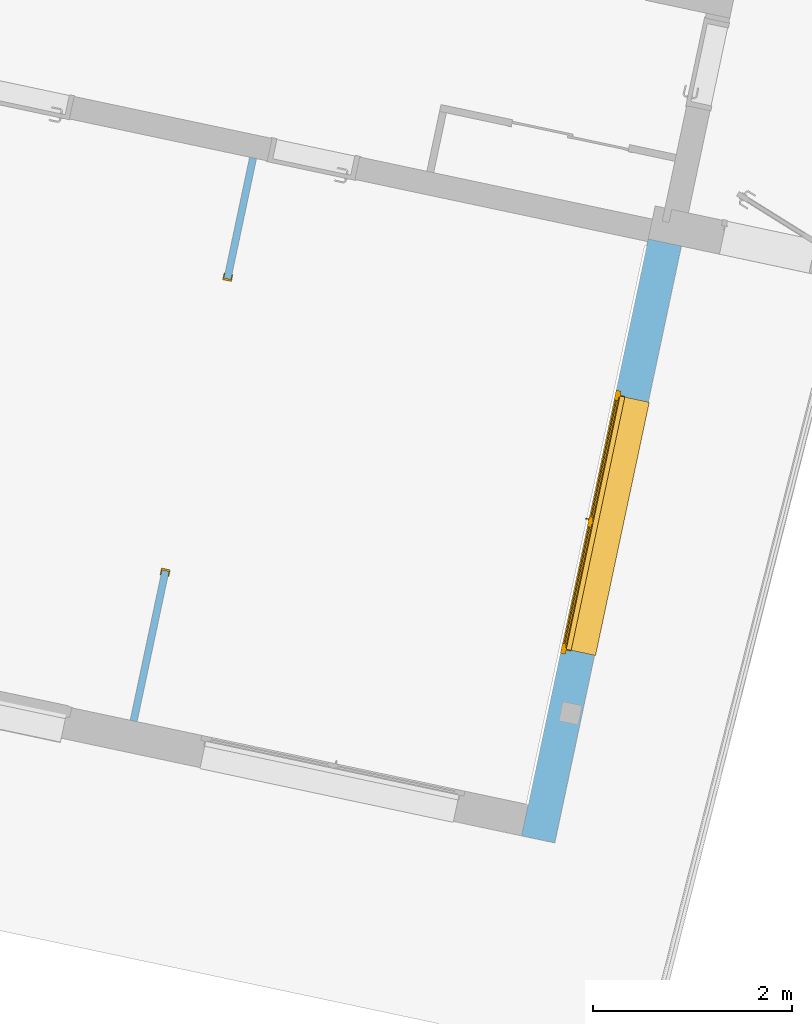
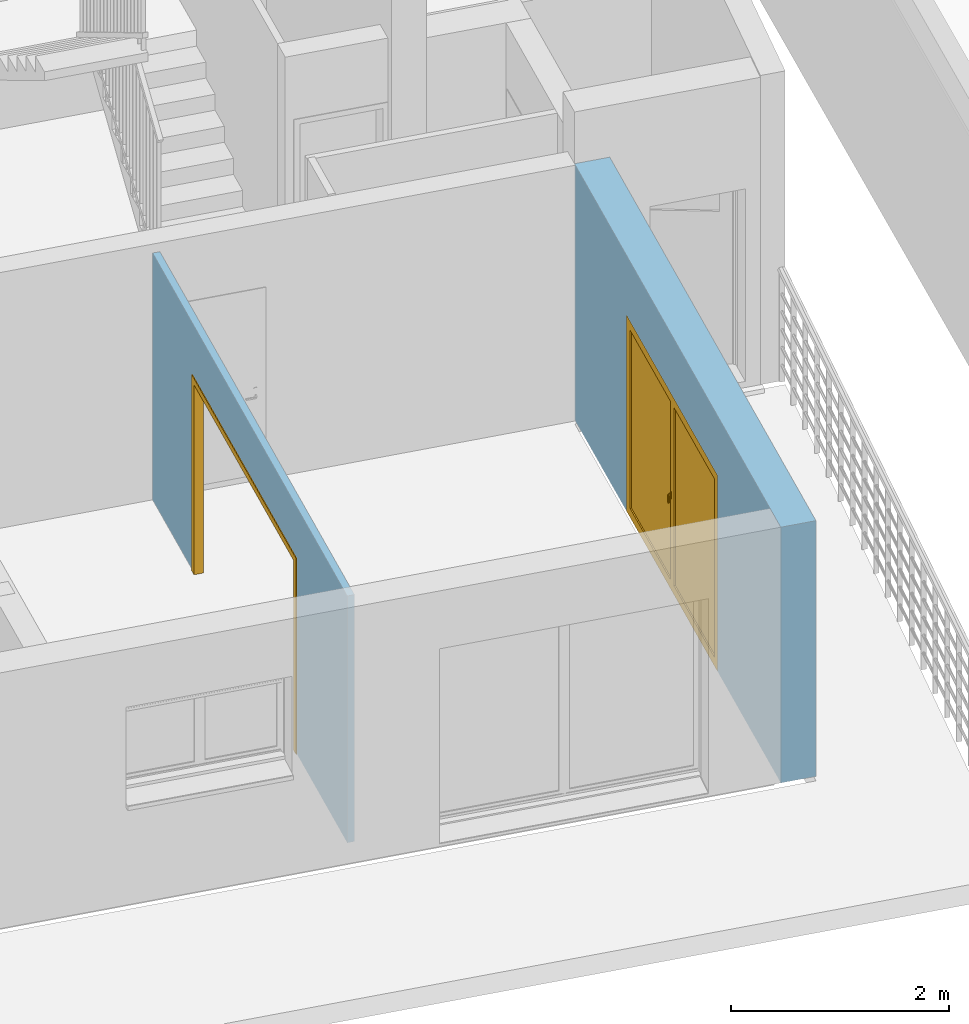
# One storey, part 8 of 20: 1 door, 1 window, 2 openings, plus 2 elements that do not belong to this part.
"""IFC2X3 building model written with IfcOpenShell, lengths in metres."""

from ifc_helpers import new_model, entity, si_unit, converted_unit, derived_unit, direction, frame, frame_2d, origin, place, context, subcontext, project, spatial, rectangle, extrude, faceted_brep, source, transform, mapped, material, material_list, layer, layer_set, layer_usage, type_object, type_shapes, element, fill, save


model = new_model("IFC2X3")

# Units and contexts
model_context = context("Model", 3, precision=1e-05, world=origin(), true_north=direction((6.12303176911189e-17, 1.0)))
body_context = subcontext(model_context, "Body", "Model", "MODEL_VIEW")
ifc_project = project(units=[si_unit("LENGTHUNIT", "METRE"), si_unit("AREAUNIT", "SQUARE_METRE"), si_unit("VOLUMEUNIT", "CUBIC_METRE"), converted_unit("PLANEANGLEUNIT", "DEGREE", entity("IfcRatioMeasure", 0.0174532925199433), si_unit("PLANEANGLEUNIT", "RADIAN"), dimensions=[0, 0, 0, 0, 0, 0, 0]), si_unit("MASSUNIT", "GRAM", prefix="KILO"), derived_unit("MASSDENSITYUNIT", [(si_unit("MASSUNIT", "GRAM", prefix="KILO"), 1), (si_unit("LENGTHUNIT", "METRE"), -3)]), si_unit("TIMEUNIT", "SECOND"), si_unit("FREQUENCYUNIT", "HERTZ"), si_unit("THERMODYNAMICTEMPERATUREUNIT", "DEGREE_CELSIUS"), derived_unit("THERMALTRANSMITTANCEUNIT", [(si_unit("MASSUNIT", "GRAM", prefix="KILO"), 1), (si_unit("THERMODYNAMICTEMPERATUREUNIT", "KELVIN"), -1), (si_unit("TIMEUNIT", "SECOND"), -3)]), derived_unit("VOLUMETRICFLOWRATEUNIT", [(si_unit("LENGTHUNIT", "METRE"), 3), (si_unit("TIMEUNIT", "SECOND"), -1)]), si_unit("ELECTRICCURRENTUNIT", "AMPERE"), si_unit("ELECTRICVOLTAGEUNIT", "VOLT"), si_unit("POWERUNIT", "WATT"), si_unit("FORCEUNIT", "NEWTON", prefix="KILO"), si_unit("ILLUMINANCEUNIT", "LUX"), si_unit("LUMINOUSFLUXUNIT", "LUMEN"), si_unit("LUMINOUSINTENSITYUNIT", "CANDELA"), derived_unit("USERDEFINED", [(si_unit("MASSUNIT", "GRAM", prefix="KILO"), -1), (si_unit("LENGTHUNIT", "METRE"), -2), (si_unit("TIMEUNIT", "SECOND"), 3), (si_unit("LUMINOUSFLUXUNIT", "LUMEN"), 1)]), derived_unit("LINEARVELOCITYUNIT", [(si_unit("LENGTHUNIT", "METRE"), 1), (si_unit("TIMEUNIT", "SECOND"), -1)]), si_unit("PRESSUREUNIT", "PASCAL"), derived_unit("USERDEFINED", [(si_unit("LENGTHUNIT", "METRE"), -2), (si_unit("MASSUNIT", "GRAM", prefix="KILO"), 1), (si_unit("TIMEUNIT", "SECOND"), -2)])], contexts=[model_context])

# Site, building, storey
site_placement = place(None, origin())
site = spatial("IfcSite", under=ifc_project, at=site_placement, Name="Default", CompositionType="ELEMENT")
building_placement = place(site_placement, origin())
building = spatial("IfcBuilding", under=site, at=building_placement, CompositionType="ELEMENT")
storey_placement = place(building_placement, frame((0.0, 0.0, -0.0686871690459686)))
storey = spatial("IfcBuildingStorey", under=building, at=storey_placement, Name="RDC", CompositionType="ELEMENT", Elevation=-0.0686871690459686)

# Wall, opening, window
ifc_material_1 = material(Name="Enduit blanc cassé2")
ifc_layer_1 = layer(ifc_material_1, 0.02)
ifc_material_2 = material(Name="Parpaing")
ifc_layer_2 = layer(ifc_material_2, 0.2)
ifc_material_3 = material(Name="Isolant")
ifc_layer_3 = layer(ifc_material_3, 0.12)
ifc_layer_set_1 = layer_set([ifc_layer_1, ifc_layer_2, ifc_layer_3], Name="Mur de base:Ext. Parpaing 20 + Isolant 12 enduit blanc cassé 2")
ifc_layer_usage_1 = layer_usage(ifc_layer_set_1, "AXIS2", "POSITIVE", -0.17)
wall_type_1 = type_object("IfcWallType", Name="Mur de base:Ext. Parpaing 20 + Isolant 12 enduit blanc cassé 2", PredefinedType="STANDARD", material=ifc_layer_set_1)
wall_1_placement = place(storey_placement, frame((-12.0401167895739, 72.8555040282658, 0.0), z_axis=(0.0, 0.0, 1.0), x_axis=(0.207484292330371, 0.978238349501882, 0.0)))
wall_1 = element("IfcWallStandardCase", 1, at=wall_1_placement, inside=storey, type_object=wall_type_1, material=ifc_layer_usage_1, Name="Mur de base:Ext. Parpaing 20 + Isolant 12 enduit blanc cassé 2", ObjectType="Mur de base:Ext. Parpaing 20 + Isolant 12 enduit blanc cassé 2", context=body_context, shape_type="SweptSolid", body=[
    extrude(rectangle(XDim=6.12478728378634, YDim=0.34, at=frame_2d((3.06239364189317, 1.55431223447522e-15), x_axis=(-1.0, 0.0))), origin(), (0.0, 0.0, 1.0), 2.86868716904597),
])
opening_1_placement = place(wall_1_placement, frame((1.72181819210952, 0.456950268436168, -0.0350000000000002), z_axis=(0.0, 0.0, 1.0), x_axis=(0.207484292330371, -0.978238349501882, 0.0)))
opening_1 = element("IfcOpeningElement", 2, at=opening_1_placement, cuts=wall_1, Name="Mur de base:Ext. Parpaing 20 + Isolant 12 enduit blanc cassé 2", ObjectType="Opening", context=body_context, shape_type="Brep", body=[
    faceted_brep([(0.401077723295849, 0.122415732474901, 0.0350000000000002), (0.72683378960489, 0.0533228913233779, 0.0), (0.978238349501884, 0.0, 0.0), (0.978238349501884, 0.0, 2.185), (0.420642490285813, 0.118266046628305, 2.185), (0.420642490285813, 0.118266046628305, 0.0350000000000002), (0.539459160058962, 2.75090400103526, 0.035), (0.539459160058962, 2.75090400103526, 2.185), (0.862277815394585, 2.68243418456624, 2.185), (0.862277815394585, 2.68243418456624, 0.0350000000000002), (0.0, 0.207484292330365, 0.035), (0.872652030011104, 2.73134610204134, 0.0350000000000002), (0.921563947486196, 2.72097188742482, 0.0350000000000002), (0.913264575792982, 2.68184235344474, 0.0350000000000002), (0.96217649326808, 2.67146813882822, 0.0350000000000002), (0.960101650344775, 2.6616857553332, 0.0349999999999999), (0.940536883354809, 2.66583544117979, 0.0350000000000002), (0.418567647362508, 0.108483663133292, 0.0350000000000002), (0.36965572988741, 0.118857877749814, 0.0350000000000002), (0.361356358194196, 0.0797283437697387, 0.0350000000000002), (0.312444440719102, 0.0901025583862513, 0.0350000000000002), (0.322818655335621, 0.139014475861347, 0.0350000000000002), (0.0, 0.207484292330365, 2.185), (0.322818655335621, 0.139014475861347, 2.185), (1.51769750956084, 2.54341970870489, 0.0), (1.51769750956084, 2.54341970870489, 2.185), (1.26629294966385, 2.59674260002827, 0.0), (0.361356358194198, 0.07972834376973, 2.235), (0.312444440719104, 0.0901025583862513, 2.235), (0.36965572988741, 0.118857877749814, 2.195), (0.913264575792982, 2.68184235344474, 2.195), (0.921563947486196, 2.72097188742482, 2.235), (0.418567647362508, 0.108483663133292, 2.195), (0.960101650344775, 2.6616857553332, 2.185), (0.96217649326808, 2.67146813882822, 2.195), (0.872652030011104, 2.73134610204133, 2.235)], [[[0, 1, 2, 3, 4, 5]], [[6, 7, 8, 9]], [[10, 6, 9, 11, 12, 13, 14, 15, 16, 0, 5, 17, 18, 19, 20, 21]], [[10, 22, 7, 6]], [[7, 22, 23, 8]], [[3, 2, 24, 25]], [[2, 1, 26, 24]], [[1, 0, 16, 26]], [[20, 19, 27, 28]], [[19, 18, 29, 30, 13, 12, 31, 27]], [[18, 17, 32, 29]], [[17, 5, 4, 33, 15, 14, 34, 32]], [[21, 20, 28, 35, 11, 9, 8, 23]], [[28, 27, 31, 35]], [[30, 29, 32, 34]], [[31, 12, 11, 35]], [[13, 30, 34, 14]], [[3, 25, 33, 4]], [[25, 24, 26, 16, 15, 33]], [[22, 10, 21, 23]]]),
])
ifc_material_4 = material(Name="Fenêtre - Poignée")
ifc_material_5 = material(Name="Fenêtre - Appui")
ifc_material_6 = material(Name="PVC Blanc")
ifc_material_7 = material(Name="Fenêtre - Vitrage")
ifc_material_8 = material(Name="Fenêtre - Cadre")
ifc_material_list_1 = material_list([ifc_material_4, ifc_material_5, ifc_material_6, ifc_material_7, ifc_material_8])
ifc_material_list_2 = material_list([ifc_material_4, ifc_material_5, ifc_material_6, ifc_material_7, ifc_material_8])
window_style = type_object("IfcWindowStyle", Name="2.60 X 2.15", ConstructionType="NOTDEFINED", OperationType="DOUBLE_PANEL_VERTICAL", ParameterTakesPrecedence=False, Sizeable=False, material=ifc_material_list_2)
shared_shape_1 = source(origin(), body_context, "Body", "Brep", [
    faceted_brep([(1.31935399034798, 0.663999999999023, 1.12203392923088), (1.33064600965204, 0.663999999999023, 1.12203392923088), (1.33203392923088, 0.663999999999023, 1.12064600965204), (1.33203392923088, 0.663999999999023, 1.10933230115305), (1.33066769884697, 0.663999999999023, 1.10796607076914), (1.31933230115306, 0.663999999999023, 1.10796607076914), (1.31796607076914, 0.663999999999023, 1.10933230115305), (1.31796607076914, 0.663999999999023, 1.12064600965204), (1.31796607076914, 0.651661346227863, 1.12064600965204), (1.31935399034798, 0.651086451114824, 1.12203392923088), (1.31796607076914, 0.656347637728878, 1.10933230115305), (1.31796607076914, 0.649667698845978, 1.10265236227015), (1.31796607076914, 0.649667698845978, 1.02000000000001), (1.31796607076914, 0.638353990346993, 1.02000000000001), (1.31796607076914, 0.638353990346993, 1.10733865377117), (1.31933230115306, 0.656913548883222, 1.10796607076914), (1.33066769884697, 0.656913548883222, 1.10796607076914), (1.33203392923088, 0.656347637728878, 1.10933230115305), (1.33203392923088, 0.651661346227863, 1.12064600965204), (1.33203392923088, 0.638353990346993, 1.10733865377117), (1.33203392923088, 0.638353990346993, 1.02000000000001), (1.33203392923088, 0.649667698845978, 1.02000000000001), (1.33203392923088, 0.649667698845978, 1.10265236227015), (1.33064600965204, 0.651086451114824, 1.12203392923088), (1.31935399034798, 0.636966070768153, 1.10791354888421), (1.31933230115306, 0.651033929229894, 1.10208645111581), (1.33066769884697, 0.651033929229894, 1.10208645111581), (1.33064600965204, 0.636966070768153, 1.10791354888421), (1.31935399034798, 0.636966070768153, 1.02000000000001), (1.31933230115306, 0.651033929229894, 1.02000000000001), (1.33066769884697, 0.651033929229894, 1.02000000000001), (1.33064600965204, 0.636966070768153, 1.02000000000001)], [[[0, 1, 2, 3, 4, 5, 6, 7]], [[7, 8, 9, 0]], [[6, 10, 11, 12, 13, 14, 8, 7]], [[5, 15, 10, 6]], [[4, 16, 15, 5]], [[3, 17, 16, 4]], [[2, 18, 19, 20, 21, 22, 17, 3]], [[1, 23, 18, 2]], [[0, 9, 23, 1]], [[8, 14, 24, 9]], [[15, 25, 11, 10]], [[16, 26, 25, 15]], [[17, 22, 26, 16]], [[23, 27, 19, 18]], [[9, 24, 27, 23]], [[28, 13, 12, 29, 30, 21, 20, 31]], [[14, 13, 28, 24]], [[25, 29, 12, 11]], [[26, 30, 29, 25]], [[22, 21, 30, 26]], [[27, 31, 20, 19]], [[24, 28, 31, 27]]]),
    faceted_brep([(1.318, 0.664000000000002, 1.14), (1.31300000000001, 0.664000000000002, 1.135), (1.31300000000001, 0.664000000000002, 1.06499999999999), (1.318, 0.664000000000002, 1.06), (1.33200000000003, 0.664000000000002, 1.06), (1.33700000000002, 0.664000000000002, 1.06499999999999), (1.33700000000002, 0.664000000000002, 1.135), (1.33200000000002, 0.664000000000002, 1.14), (1.318, 0.670000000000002, 1.14), (1.33200000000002, 0.670000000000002, 1.14), (1.33700000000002, 0.670000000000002, 1.135), (1.33700000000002, 0.670000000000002, 1.06499999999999), (1.33200000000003, 0.670000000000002, 1.06), (1.318, 0.670000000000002, 1.06), (1.31300000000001, 0.670000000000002, 1.06499999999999), (1.31300000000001, 0.670000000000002, 1.135)], [[[0, 1, 2, 3, 4, 5, 6, 7]], [[8, 9, 10, 11, 12, 13, 14, 15]], [[7, 9, 8, 0]], [[6, 10, 9, 7]], [[5, 11, 10, 6]], [[4, 12, 11, 5]], [[3, 13, 12, 4]], [[2, 14, 13, 3]], [[1, 15, 14, 2]], [[0, 8, 15, 1]]]),
    faceted_brep([(0.0500000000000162, 1.02002887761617, 0.0118740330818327), (0.0500000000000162, 1.02002887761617, 0.00500000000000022), (0.0500000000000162, 1.01502887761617, 0.00500000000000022), (0.0500000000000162, 1.01502887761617, 0.00714434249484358), (0.0500000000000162, 0.750000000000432, 0.0349999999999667), (0.0500000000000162, 0.750000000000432, 0.0499999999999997), (0.0500000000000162, 0.755000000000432, 0.0499999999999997), (0.0500000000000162, 0.755000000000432, 0.0397296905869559), (2.65000000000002, 1.02002887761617, 0.0118740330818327), (2.65000000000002, 0.755000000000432, 0.0397296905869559), (2.65000000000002, 0.755000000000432, 0.0499999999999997), (2.65000000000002, 0.750000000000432, 0.0499999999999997), (2.65000000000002, 0.750000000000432, 0.0349999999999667), (2.65000000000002, 1.01502887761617, 0.00714434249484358), (2.65000000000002, 1.01502887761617, 0.00500000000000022), (2.65000000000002, 1.02002887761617, 0.00500000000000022)], [[[0, 1, 2, 3, 4, 5, 6, 7]], [[8, 9, 10, 11, 12, 13, 14, 15]], [[7, 9, 8, 0]], [[6, 10, 9, 7]], [[5, 11, 10, 6]], [[4, 12, 11, 5]], [[3, 13, 12, 4]], [[2, 14, 13, 3]], [[1, 15, 14, 2]], [[0, 8, 15, 1]]]),
    faceted_brep([(2.65000000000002, 1.01900145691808, 0.0159764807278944), (2.65000000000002, 1.01644699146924, 0.017278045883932), (2.65000000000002, 0.755000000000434, 0.0447572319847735), (2.65000000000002, 0.755000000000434, 0.0397296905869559), (2.65000000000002, 1.02002887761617, 0.0118740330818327), (2.65000000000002, 1.02002887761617, 0.0132999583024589), (2.64500000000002, 1.01644699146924, 0.017278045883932), (2.64500000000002, 1.01900145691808, 0.0159764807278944), (2.64500000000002, 1.02002887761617, 0.0132999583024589), (2.64500000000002, 1.02002887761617, 0.0118740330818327), (2.64500000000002, 0.755000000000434, 0.0397296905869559), (2.64500000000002, 0.755000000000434, 0.0447572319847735)], [[[0, 1, 2, 3, 4, 5]], [[6, 7, 8, 9, 10, 11]], [[9, 4, 3, 10]], [[10, 3, 2, 11]], [[11, 2, 1, 6]], [[0, 7, 6, 1]], [[5, 8, 7, 0]], [[8, 5, 4, 9]]]),
    faceted_brep([(0.0550000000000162, 1.01900145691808, 0.0159764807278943), (0.0550000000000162, 1.01644699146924, 0.017278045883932), (0.0550000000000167, 0.75500000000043, 0.0447572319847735), (0.0550000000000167, 0.75500000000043, 0.0397296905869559), (0.0550000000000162, 1.02002887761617, 0.0118740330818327), (0.0550000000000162, 1.02002887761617, 0.0132999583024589), (0.0500000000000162, 1.01644699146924, 0.017278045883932), (0.0500000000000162, 1.01900145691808, 0.0159764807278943), (0.0500000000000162, 1.02002887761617, 0.0132999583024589), (0.0500000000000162, 1.02002887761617, 0.0118740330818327), (0.0500000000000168, 0.75500000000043, 0.0397296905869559), (0.0500000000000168, 0.75500000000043, 0.0447572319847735)], [[[0, 1, 2, 3, 4, 5]], [[6, 7, 8, 9, 10, 11]], [[9, 4, 3, 10]], [[10, 3, 2, 11]], [[11, 2, 1, 6]], [[0, 7, 6, 1]], [[5, 8, 7, 0]], [[8, 5, 4, 9]]]),
    faceted_brep([(1.35000000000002, 0.710000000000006, 0.0850000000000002), (2.65000000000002, 0.71000000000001, 0.0850000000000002), (2.65000000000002, 0.670000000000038, 0.0850000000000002), (1.35000000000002, 0.670000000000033, 0.0850000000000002), (1.40000000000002, 0.670000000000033, 0.135), (2.60000000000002, 0.670000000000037, 0.135), (2.60000000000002, 0.71000000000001, 0.135), (1.40000000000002, 0.710000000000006, 0.135), (2.65000000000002, 0.71000000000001, 2.185), (2.65000000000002, 0.670000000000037, 2.185), (2.60000000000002, 0.670000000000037, 2.135), (2.60000000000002, 0.71000000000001, 2.135), (1.35000000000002, 0.710000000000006, 2.185), (1.35000000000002, 0.670000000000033, 2.185), (1.40000000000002, 0.670000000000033, 2.135), (1.40000000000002, 0.710000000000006, 2.135)], [[[0, 1, 2, 3]], [[4, 5, 6, 7]], [[1, 8, 9, 2]], [[5, 10, 11, 6]], [[8, 12, 13, 9]], [[10, 14, 15, 11]], [[12, 0, 3, 13]], [[1, 0, 12, 8], [7, 6, 11, 15]], [[14, 4, 7, 15]], [[3, 2, 9, 13], [5, 4, 14, 10]]]),
    faceted_brep([(2.60000000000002, 0.695999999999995, 2.135), (2.60000000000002, 0.695999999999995, 0.135), (1.40000000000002, 0.695999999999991, 0.135), (1.40000000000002, 0.695999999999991, 2.135), (2.60000000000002, 0.683999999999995, 2.135), (1.40000000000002, 0.683999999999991, 2.135), (1.40000000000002, 0.683999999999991, 0.135), (2.60000000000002, 0.683999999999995, 0.135)], [[[0, 1, 2, 3]], [[4, 5, 6, 7]], [[3, 5, 4, 0]], [[2, 6, 5, 3]], [[1, 7, 6, 2]], [[0, 4, 7, 1]]]),
    faceted_brep([(1.30000000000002, 0.69599999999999, 2.135), (1.30000000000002, 0.68399999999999, 2.135), (1.30000000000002, 0.68399999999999, 0.135000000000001), (1.30000000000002, 0.69599999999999, 0.135000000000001), (0.100000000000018, 0.695999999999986, 2.135), (0.100000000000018, 0.683999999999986, 2.135), (0.100000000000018, 0.695999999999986, 0.135000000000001), (0.100000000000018, 0.683999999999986, 0.135000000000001)], [[[0, 1, 2, 3]], [[4, 5, 1, 0]], [[6, 7, 5, 4]], [[3, 2, 7, 6]], [[2, 1, 5, 7]], [[3, 6, 4, 0]]]),
    faceted_brep([(1.30000000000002, 0.709999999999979, 0.135), (0.100000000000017, 0.709999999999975, 0.135), (0.100000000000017, 0.669999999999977, 0.135), (1.30000000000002, 0.669999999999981, 0.135), (1.35000000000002, 0.669999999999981, 0.0850000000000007), (0.0500000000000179, 0.669999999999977, 0.0850000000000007), (0.0500000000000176, 0.709999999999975, 0.0850000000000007), (1.35000000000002, 0.709999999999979, 0.0850000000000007), (0.100000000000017, 0.709999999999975, 2.135), (0.100000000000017, 0.669999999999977, 2.135), (0.0500000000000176, 0.669999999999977, 2.185), (0.0500000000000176, 0.709999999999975, 2.185), (1.30000000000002, 0.709999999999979, 2.135), (1.30000000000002, 0.669999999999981, 2.135), (1.35000000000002, 0.669999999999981, 2.185), (1.35000000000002, 0.709999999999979, 2.185)], [[[0, 1, 2, 3]], [[4, 5, 6, 7]], [[1, 8, 9, 2]], [[5, 10, 11, 6]], [[8, 12, 13, 9]], [[10, 14, 15, 11]], [[12, 0, 3, 13]], [[1, 0, 12, 8], [7, 6, 11, 15]], [[14, 4, 7, 15]], [[3, 2, 9, 13], [5, 4, 14, 10]]], outer=[[True], [True], [True], [True], [True], [True], [True], [False, True], [True], [False, True]]),
    faceted_brep([(2.70000000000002, 0.670000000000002, 0.0350000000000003), (0.0, 0.670000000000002, 0.0350000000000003), (0.0, 0.720000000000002, 0.0350000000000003), (0.0500000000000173, 0.720000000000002, 0.035), (0.0500000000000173, 0.749999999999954, 0.0350000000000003), (2.65000000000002, 0.749999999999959, 0.0350000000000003), (2.65000000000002, 0.720000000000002, 0.0350000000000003), (2.70000000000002, 0.720000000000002, 0.0350000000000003), (2.65000000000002, 0.720000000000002, 0.0743761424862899), (0.0500000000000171, 0.720000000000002, 0.0743761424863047), (0.0, 0.720000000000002, 2.235), (2.70000000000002, 0.720000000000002, 2.235), (2.63500000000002, 0.720000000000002, 2.17), (0.0650000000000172, 0.720000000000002, 2.17), (0.0650000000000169, 0.720000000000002, 0.0999999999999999), (2.63500000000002, 0.720000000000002, 0.1), (2.63500000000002, 0.710000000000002, 0.1), (2.63500000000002, 0.710000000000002, 2.17), (0.0650000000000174, 0.710000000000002, 0.0999999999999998), (0.0650000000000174, 0.710000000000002, 2.17), (0.0500000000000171, 0.710000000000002, 2.185), (0.0500000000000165, 0.710000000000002, 0.0850000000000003), (2.65000000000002, 0.710000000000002, 0.0850000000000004), (2.65000000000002, 0.710000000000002, 2.185), (2.65000000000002, 0.670000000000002, 0.0850000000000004), (2.65000000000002, 0.670000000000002, 2.185), (0.0500000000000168, 0.670000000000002, 2.185), (0.0500000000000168, 0.670000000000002, 0.0850000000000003), (2.70000000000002, 0.670000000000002, 2.235), (0.0, 0.670000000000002, 2.235), (2.65000000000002, 0.749999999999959, 0.050000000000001), (2.65000000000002, 0.759999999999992, 0.050000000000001), (2.65000000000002, 0.759999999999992, 0.0450000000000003), (2.65000000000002, 0.769999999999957, 0.0450000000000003), (2.65000000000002, 0.769999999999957, 0.060978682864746), (0.0500000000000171, 0.769999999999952, 0.060978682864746), (0.0500000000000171, 0.769999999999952, 0.0450000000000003), (0.0500000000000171, 0.759999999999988, 0.0450000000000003), (0.0500000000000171, 0.759999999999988, 0.050000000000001), (0.0500000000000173, 0.749999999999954, 0.050000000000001)], [[[0, 1, 2, 3, 4, 5, 6, 7]], [[7, 6, 8, 9, 3, 2, 10, 11], [12, 13, 14, 15]], [[12, 15, 16, 17]], [[17, 16, 18, 19], [20, 21, 22, 23]], [[22, 24, 25, 23]], [[26, 25, 24, 27], [0, 28, 29, 1]], [[7, 11, 28, 0]], [[12, 17, 19, 13]], [[23, 25, 26, 20]], [[10, 29, 28, 11]], [[19, 18, 14, 13]], [[26, 27, 21, 20]], [[2, 1, 29, 10]], [[8, 6, 5, 30, 31, 32, 33, 34]], [[4, 3, 9, 35, 36, 37, 38, 39]], [[24, 22, 21, 27]], [[16, 15, 14, 18]], [[34, 35, 9, 8]], [[33, 36, 35, 34]], [[32, 37, 36, 33]], [[31, 38, 37, 32]], [[30, 39, 38, 31]], [[5, 4, 39, 30]]], outer=[[True], [True, False], [True], [False, True], [True], [False, True], [True], [True], [True], [True], [True], [True], [True], [True], [True], [True], [True], [True], [True], [True], [True], [True], [True]]),
    faceted_brep([(2.65000000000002, 0.770000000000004, 0.0350000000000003), (2.66000000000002, 0.770000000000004, 0.0350000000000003), (2.66000000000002, 0.720000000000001, 0.0350000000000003), (2.65000000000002, 0.720000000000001, 0.0350000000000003), (2.65000000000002, 0.720000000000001, 2.185), (2.65000000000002, 0.770000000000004, 2.185), (2.66000000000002, 0.720000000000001, 2.195), (0.0400000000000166, 0.720000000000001, 2.195), (0.0400000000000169, 0.720000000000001, 0.035), (0.0500000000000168, 0.720000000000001, 0.0350000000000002), (0.0500000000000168, 0.720000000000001, 2.185), (2.66000000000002, 0.770000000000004, 2.195), (0.0500000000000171, 0.770000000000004, 2.185), (0.0500000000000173, 0.770000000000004, 0.035), (0.0400000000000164, 0.770000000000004, 0.0350000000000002), (0.0400000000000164, 0.770000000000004, 2.195)], [[[0, 1, 2, 3]], [[3, 4, 5, 0]], [[2, 6, 7, 8, 9, 10, 4, 3]], [[1, 11, 6, 2]], [[0, 5, 12, 13, 14, 15, 11, 1]], [[4, 10, 12, 5]], [[11, 15, 7, 6]], [[13, 9, 8, 14]], [[10, 9, 13, 12]], [[15, 14, 8, 7]]]),
    faceted_brep([(1.33000000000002, 0.717999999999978, 2.17), (1.33000000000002, 0.709999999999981, 2.17), (1.37000000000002, 0.709999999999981, 2.17), (1.37000000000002, 0.717999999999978, 2.17), (1.33000000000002, 0.717999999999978, 0.0999999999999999), (1.37000000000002, 0.717999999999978, 0.0999999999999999), (1.37000000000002, 0.709999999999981, 0.0999999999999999), (1.33000000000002, 0.709999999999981, 0.0999999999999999)], [[[0, 1, 2, 3]], [[4, 5, 6, 7]], [[3, 5, 4, 0]], [[2, 6, 5, 3]], [[1, 7, 6, 2]], [[0, 4, 7, 1]]]),
])
type_shapes(window_style, [shared_shape_1])
window_placement = place(opening_1_placement, frame((0.217232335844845, 2.8703605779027, 0.0), z_axis=(0.0, 0.0, 1.0), x_axis=(-0.207484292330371, -0.978238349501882, 0.0)))
window = element("IfcWindow", 3, at=window_placement, inside=storey, type_object=window_style, material=ifc_material_list_1, Name="PF 2 Vantaux - Droits:2.60 X 2.15", ObjectType="PF 2 Vantaux - Droits:2.60 X 2.15", OverallHeight=2.265, OverallWidth=2.7, context=body_context, shape_type="MappedRepresentation", body=[
    mapped(shared_shape_1, transform((0.0, 0.0, 0.0), scale=1.0)),
])
fill(opening_1, window)

# Wall, opening, door
ifc_material_9 = material(Name="Blanc - Element de salle de bains")
ifc_layer_4 = layer(ifc_material_9, 0.07)
ifc_layer_set_2 = layer_set([ifc_layer_4], Name="Mur de base:Int.  Platre 70 mm en blanc")
ifc_layer_usage_2 = layer_usage(ifc_layer_set_2, "AXIS2", "POSITIVE", -0.035)
wall_type_2 = type_object("IfcWallType", Name="Mur de base:Int.  Platre 70 mm en blanc", PredefinedType="STANDARD", material=ifc_layer_set_2)
wall_2_placement = place(storey_placement, frame((-14.902967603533, 79.6977646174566, 0.0), z_axis=(0.0, 0.0, 1.0), x_axis=(-0.207484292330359, -0.978238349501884, 0.0)))
wall_2 = element("IfcWallStandardCase", 4, at=wall_2_placement, inside=storey, type_object=wall_type_2, material=ifc_layer_usage_2, Name="Mur de base:Int.  Platre 70 mm en blanc", ObjectType="Mur de base:Int.  Platre 70 mm en blanc", context=body_context, shape_type="SweptSolid", body=[
    extrude(rectangle(XDim=5.77936513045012, YDim=0.0699999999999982, at=frame_2d((2.88968256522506, 8.77770078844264e-16), x_axis=(-1.0, 0.0))), origin(), (0.0, 0.0, 1.0), 2.76868716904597),
])
opening_2_placement = place(wall_2_placement, frame((4.23936513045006, 0.0350000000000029, 0.0)))
opening_2 = element("IfcOpeningElement", 5, at=opening_2_placement, cuts=wall_2, Name="Ouverture en rectangle:Ouverture en rectangle 3m:1", ObjectType="Opening", context=body_context, shape_type="SweptSolid", body=[
    extrude(rectangle(XDim=2.14999999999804, YDim=3.0, at=frame_2d((1.07499999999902, 1.5), x_axis=(1.0, 0.0))), frame((0.0, 0.0, 0.0), z_axis=(0.0, -1.0, 0.0), x_axis=(0.0, 0.0, 1.0)), (0.0, 0.0, 1.0), 0.07),
])
ifc_material_10 = material(Name="Bois - Chêne")
door_style = type_object("IfcDoorStyle", Name="Ouverture en rectangle 3m", ConstructionType="NOTDEFINED", OperationType="NOTDEFINED", ParameterTakesPrecedence=False, Sizeable=False, material=ifc_material_10)
shared_shape_2 = source(origin(), body_context, "Body", "Brep", [
    faceted_brep([(0.0, 0.0, 0.0), (0.0, 0.0700000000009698, 0.0), (-0.0499999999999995, 0.0700000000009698, 0.0), (-0.0499999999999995, 0.0800000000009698, 0.0), (0.0200000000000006, 0.0800000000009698, 0.0), (0.0200000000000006, -0.00999999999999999, 0.0), (-0.0499999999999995, -0.00999999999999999, 0.0), (-0.0499999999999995, 0.0, 0.0), (0.0, 0.0, 2.14999999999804), (0.0, 0.0700000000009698, 2.14999999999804), (3.0, 0.0700000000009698, 2.14999999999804), (3.0, 0.0700000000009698, 0.0), (3.05, 0.0700000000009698, 0.0), (3.05, 0.0700000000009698, 2.19999999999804), (-0.0499999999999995, 0.0700000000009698, 2.19999999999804), (-0.0499999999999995, 0.0800000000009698, 2.19999999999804), (3.05, 0.0800000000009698, 2.19999999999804), (3.05, 0.0800000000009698, 0.0), (2.98, 0.0800000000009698, 0.0), (2.98, 0.0800000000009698, 2.12999999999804), (0.0200000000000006, 0.0800000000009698, 2.12999999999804), (0.0200000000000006, -0.00999999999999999, 2.12999999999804), (2.98, -0.00999999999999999, 2.12999999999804), (2.98, -0.00999999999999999, 0.0), (3.05, -0.00999999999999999, 0.0), (3.05, -0.00999999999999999, 2.19999999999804), (-0.0499999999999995, -0.00999999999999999, 2.19999999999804), (-0.0499999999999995, 0.0, 2.19999999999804), (3.05, 0.0, 2.19999999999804), (3.05, 0.0, 0.0), (3.0, 0.0, 0.0), (3.0, 0.0, 2.14999999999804)], [[[0, 1, 2, 3, 4, 5, 6, 7]], [[1, 0, 8, 9]], [[2, 1, 9, 10, 11, 12, 13, 14]], [[3, 2, 14, 15]], [[4, 3, 15, 16, 17, 18, 19, 20]], [[5, 4, 20, 21]], [[6, 5, 21, 22, 23, 24, 25, 26]], [[7, 6, 26, 27]], [[0, 7, 27, 28, 29, 30, 31, 8]], [[10, 31, 30, 11]], [[30, 29, 24, 23, 18, 17, 12, 11]], [[16, 13, 12, 17]], [[22, 19, 18, 23]], [[28, 25, 24, 29]], [[9, 8, 31, 10]], [[15, 14, 13, 16]], [[21, 20, 19, 22]], [[27, 26, 25, 28]]]),
])
type_shapes(door_style, [shared_shape_2])
door_placement = place(opening_2_placement, frame((0.0, 0.0, 0.0), z_axis=(0.0, 0.0, 1.0), x_axis=(-1.0, 0.0, 0.0)))
door = element("IfcDoor", 6, at=door_placement, inside=storey, type_object=door_style, material=ifc_material_10, Name="Ouverture en rectangle:Ouverture en rectangle 3m", ObjectType="Ouverture en rectangle:Ouverture en rectangle 3m", OverallHeight=2.14999999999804, OverallWidth=3.0, context=body_context, shape_type="MappedRepresentation", body=[
    mapped(shared_shape_2, transform((0.0, 0.0, 0.0), scale=1.0)),
])
fill(opening_2, door)

save(model, "model.ifc")
